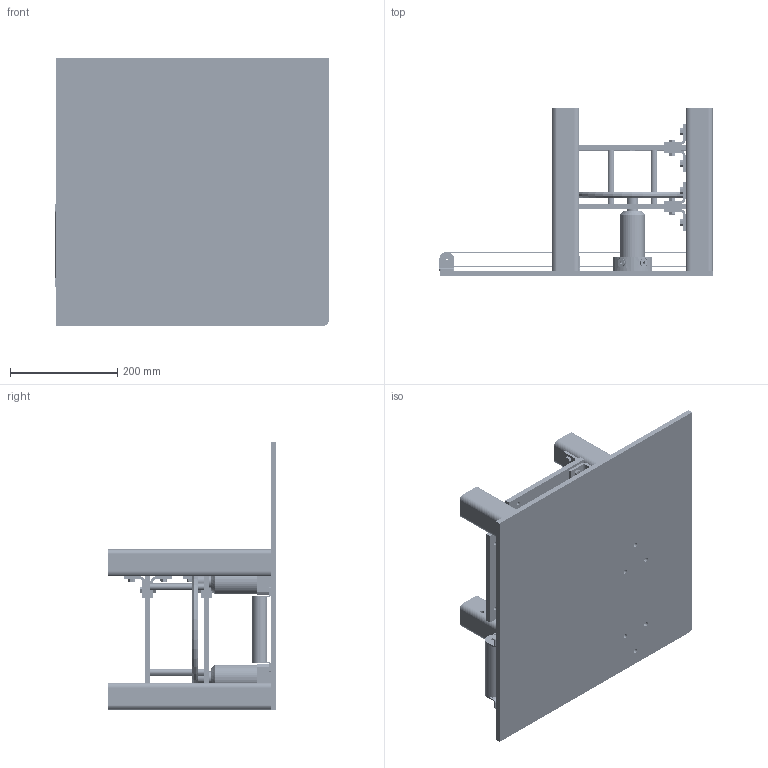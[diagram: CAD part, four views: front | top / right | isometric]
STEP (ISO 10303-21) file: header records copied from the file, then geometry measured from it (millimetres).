
FILE_DESCRIPTION (( 'STEP AP214' ), '1' );
FILE_NAME ('Assem.STEP', '2026-03-16T01:17:54', ( '' ), ( '' ), 'SwSTEP 2.0', 'SolidWorks 2024', '' );
FILE_SCHEMA (( 'AUTOMOTIVE_DESIGN' ));
Length unit declared in the file: millimetre
Products named in the file (24): PA1066044.STP.stp; CCA411028.STP.stp; l bracket; 91280A416_Medium-Strength Class 8.8 Steel Hex Head Screw_91280A416; Part11^Assem; 91280A410_Medium-Strength Class 8.8 Steel Hex Head Screw_91280A410; Part1^Assem; mid punch plate; PA1815040 cyinder.stp; Part12^Assem; Assem; Part9^Assem; top plate and cylinder mount; PA1303167.STP.stp; 90045A114_18-8 Stainless Steel Top-Lock Distorted-Thread Locknut_90045A114; conveyor bracket; Part13^Assem; B1003006V.STP.stp; PLSD121body.stp; 6061K428_Linear Motion Shaft_6061K428; B1011803.STP.stp; HSS 2x2x0.1875; PA1116005.STP.stp; B1003006.STP.stp
Assembly tree (76 placements, depth 3):
  Assem
    mid punch plate
    HSS 2x2x0.1875  x4
    l bracket  x8
    91280A410_Medium-Strength Class 8.8 Steel Hex Head Screw_91280A410  x16
    91280A416_Medium-Strength Class 8.8 Steel Hex Head Screw_91280A416  x8
    90045A114_18-8 Stainless Steel Top-Lock Distorted-Thread Locknut_90045A114  x8
    Part1^Assem
    PA1815040 cyinder.stp  x2
    PLSD121body.stp  x2
      PA1116005.STP.stp
      B1003006V.STP.stp
      PA1303167.STP.stp
      CCA411028.STP.stp
      B1011803.STP.stp
      PA1066044.STP.stp
      B1003006.STP.stp
    top plate and cylinder mount
    6061K428_Linear Motion Shaft_6061K428  x4
    Part9^Assem
    Part11^Assem
    Part12^Assem  x3
    conveyor bracket  x6
  Part13^Assem
Bounding box: 511.11 x 314.8 x 500 mm (x, y, z)
Volume: 5938762.5 mm3; surface area: 1906990.1 mm2
Topology: 78 solids, 96 shells, 4311 faces, 11093 edges, 7188 vertices
Faces by surface type: cylinder 1697, plane 1066, bspline 856, cone 636, torus 56
Entity records: 38289 total; most frequent: CARTESIAN_POINT 16994, ORIENTED_EDGE 4256, DIRECTION 4205, EDGE_CURVE 2140, AXIS2_PLACEMENT_3D 1663, VERTEX_POINT 1379, EDGE_LOOP 1079, LINE 879
